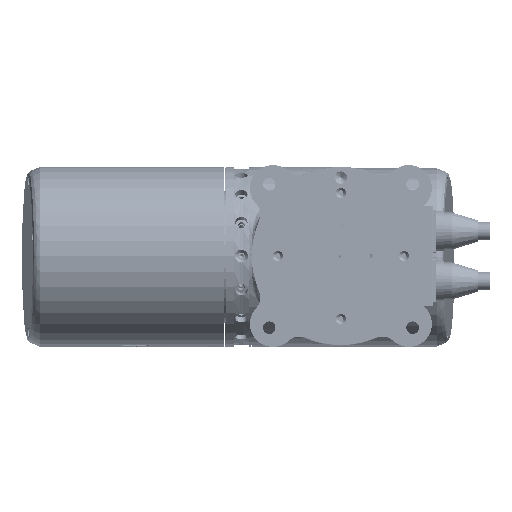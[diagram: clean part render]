
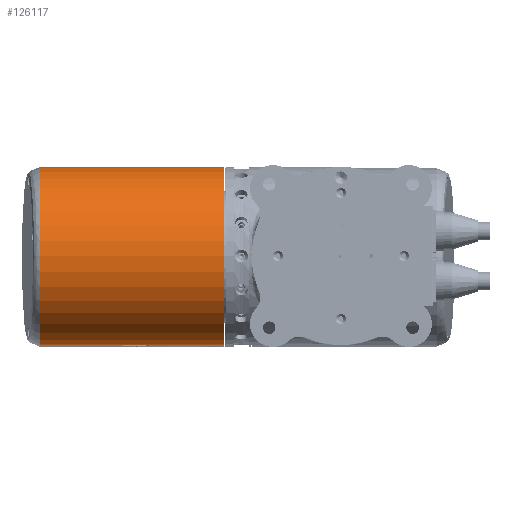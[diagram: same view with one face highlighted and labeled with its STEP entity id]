
A CAD part, top view. The second image highlights one B-rep face of the part: STEP entity #126117.
In plain terms, the highlighted cylindrical face has radius 58 mm (diameter 116 mm), a partial arc.
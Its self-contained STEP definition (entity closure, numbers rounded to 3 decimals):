
#3680 = CARTESIAN_POINT ( 'NONE',  ( 58., 0., 120. ) ) ;
#5681 = DIRECTION ( 'NONE',  ( 0., 0., -1. ) ) ;
#9319 = EDGE_CURVE ( 'NONE', #168528, #116567, #98522, .T. ) ;
#9943 = EDGE_CURVE ( 'NONE', #80330, #116567, #60070, .T. ) ;
#11449 = DIRECTION ( 'NONE',  ( 0., 0., -1. ) ) ;
#24264 = VERTEX_POINT ( 'NONE', #131958 ) ;
#29371 = DIRECTION ( 'NONE',  ( 0., 0., -1. ) ) ;
#30476 = DIRECTION ( 'NONE',  ( 0., 0., -1. ) ) ;
#33472 = CARTESIAN_POINT ( 'NONE',  ( -58., 0., 120. ) ) ;
#35610 = CARTESIAN_POINT ( 'NONE',  ( 58., 0., 0. ) ) ;
#37350 = VECTOR ( 'NONE', #30476, 1000. ) ;
#41394 = AXIS2_PLACEMENT_3D ( 'NONE', #76991, #5681, #99401 ) ;
#51994 = CARTESIAN_POINT ( 'NONE',  ( 0., 0., 120. ) ) ;
#60070 = LINE ( 'NONE', #260589, #96270 ) ;
#61149 = VERTEX_POINT ( 'NONE', #3680 ) ;
#68131 = CARTESIAN_POINT ( 'NONE',  ( -58., 0., 58. ) ) ;
#71943 = LINE ( 'NONE', #103159, #254306 ) ;
#75625 = CYLINDRICAL_SURFACE ( 'NONE', #41394, 58. ) ;
#76991 = CARTESIAN_POINT ( 'NONE',  ( 0., 0., 120. ) ) ;
#80330 = VERTEX_POINT ( 'NONE', #251172 ) ;
#87449 = DIRECTION ( 'NONE',  ( 0., 0., 1. ) ) ;
#88302 = ORIENTED_EDGE ( 'NONE', *, *, #9943, .F. ) ;
#89959 = EDGE_CURVE ( 'NONE', #24264, #61149, #94334, .T. ) ;
#91552 = EDGE_CURVE ( 'NONE', #61149, #80330, #210491, .T. ) ;
#92819 = VERTEX_POINT ( 'NONE', #68131 ) ;
#94334 = CIRCLE ( 'NONE', #107763, 58. ) ;
#96270 = VECTOR ( 'NONE', #29371, 1000. ) ;
#98522 = CIRCLE ( 'NONE', #292133, 58. ) ;
#99401 = DIRECTION ( 'NONE',  ( -1., 0., 0. ) ) ;
#103159 = CARTESIAN_POINT ( 'NONE',  ( -58., 0., 120. ) ) ;
#103378 = ORIENTED_EDGE ( 'NONE', *, *, #91552, .F. ) ;
#106669 = EDGE_CURVE ( 'NONE', #92819, #168528, #270597, .T. ) ;
#107763 = AXIS2_PLACEMENT_3D ( 'NONE', #51994, #124230, #169022 ) ;
#111923 = DIRECTION ( 'NONE',  ( 1., 0., 0. ) ) ;
#116567 = VERTEX_POINT ( 'NONE', #35610 ) ;
#124230 = DIRECTION ( 'NONE',  ( 0., 0., 1. ) ) ;
#126117 = ADVANCED_FACE ( 'NONE', ( #137503 ), #75625, .T. ) ;
#131958 = CARTESIAN_POINT ( 'NONE',  ( -58., 0., 120. ) ) ;
#137503 = FACE_OUTER_BOUND ( 'NONE', #246178, .T. ) ;
#138270 = CARTESIAN_POINT ( 'NONE',  ( 0., 0., 0. ) ) ;
#150988 = ORIENTED_EDGE ( 'NONE', *, *, #89959, .F. ) ;
#158269 = ORIENTED_EDGE ( 'NONE', *, *, #9319, .T. ) ;
#159931 = EDGE_CURVE ( 'NONE', #24264, #92819, #71943, .T. ) ;
#168528 = VERTEX_POINT ( 'NONE', #215986 ) ;
#169022 = DIRECTION ( 'NONE',  ( 1., 0., 0. ) ) ;
#189911 = DIRECTION ( 'NONE',  ( 0., 0., -1. ) ) ;
#210491 = LINE ( 'NONE', #213423, #232389 ) ;
#213423 = CARTESIAN_POINT ( 'NONE',  ( 58., 0., 120. ) ) ;
#215986 = CARTESIAN_POINT ( 'NONE',  ( -58., 0., 0. ) ) ;
#217126 = ORIENTED_EDGE ( 'NONE', *, *, #106669, .T. ) ;
#229370 = ORIENTED_EDGE ( 'NONE', *, *, #159931, .T. ) ;
#232389 = VECTOR ( 'NONE', #189911, 1000. ) ;
#246178 = EDGE_LOOP ( 'NONE', ( #103378, #150988, #229370, #217126, #158269, #88302 ) ) ;
#251172 = CARTESIAN_POINT ( 'NONE',  ( 58., 0., 58. ) ) ;
#254306 = VECTOR ( 'NONE', #11449, 1000. ) ;
#260589 = CARTESIAN_POINT ( 'NONE',  ( 58., 0., 120. ) ) ;
#270597 = LINE ( 'NONE', #33472, #37350 ) ;
#292133 = AXIS2_PLACEMENT_3D ( 'NONE', #138270, #87449, #111923 ) ;
